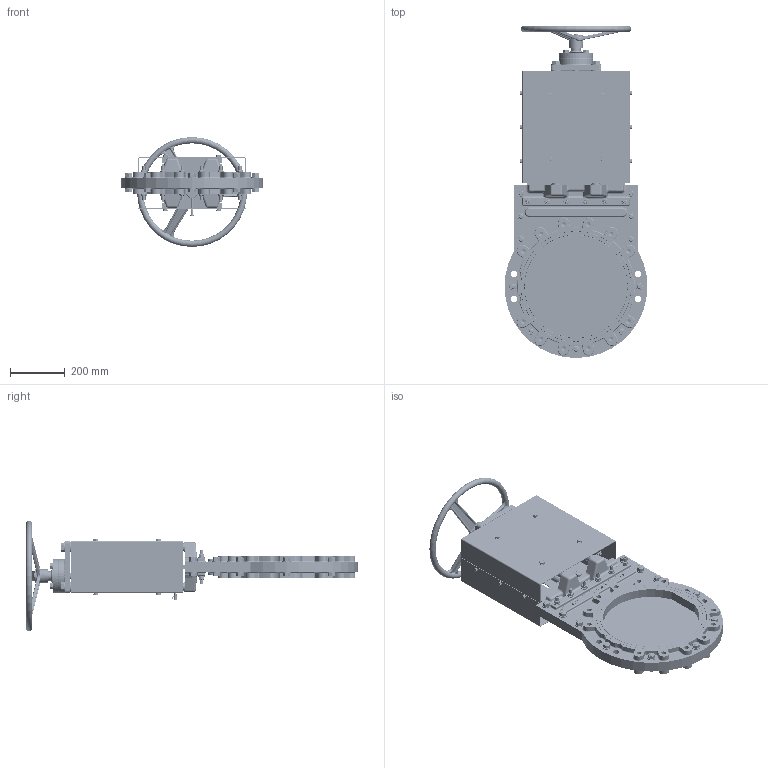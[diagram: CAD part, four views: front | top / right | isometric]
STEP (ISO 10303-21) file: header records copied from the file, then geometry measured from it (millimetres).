
FILE_DESCRIPTION(/* description */ (''),/* implementation_level */ '2;1');
FILE_NAME(/* name */ 'Non-rising stem knife gate valve with handwheel DN350-10带护罩.stp',/* time_stamp */ '2025-04-07T14:22:49+08:00',/* author */ (''),/* organization */ (''),/* preprocessor_version */ 'ST-DEVELOPER v15',/* originating_system */ 'SIEMENS PLM Software NX 10.0',/* authorisation */ '');
FILE_SCHEMA (('AP203_CONFIGURATION_CONTROLLED_3D_DESIGN_OF_MECHANICAL_PARTS_AND_ASSEMBLIES_MIM_LF { 1 0 10303 403 2 1 2}'));
Products named in the file (1): Admi27C0C158bsfr
Bounding box: 519.99 x 1207.5 x 399.98 mm (x, y, z)
Volume: 16947790.2 mm3; surface area: 2582330.6 mm2
Topology: 1 solids, 57 shells, 3416 faces, 8234 edges, 5200 vertices
Faces by surface type: plane 1542, cylinder 811, bspline 432, cone 351, torus 121, extrusion 121, sphere 38
Full cylindrical faces by diameter (mm): 6 x3, 8 x13, 8.4 x12, 8.5 x8, 9 x1, 9.5 x12, 10 x9, 10.5 x9, 11 x8, 11.053 x4, 11.4 x6, 11.5 x1, 12 x32, 12.5 x12, 13 x16, 15.053 x13, 15.6 x9, 16 x40, 17 x24, 17.2 x4, 17.294 x24, 17.5 x8, 19.053 x4, 20 x16, 21 x12, 22 x26, 23 x4, 24 x16, 27 x4, 28 x5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
Entity records: 104144 total; most frequent: CARTESIAN_POINT 32674, ORIENTED_EDGE 14360, DIRECTION 13410, EDGE_CURVE 7180, AXIS2_PLACEMENT_3D 5206, VERTEX_POINT 4896, EDGE_LOOP 4572, ADVANCED_FACE 3416
